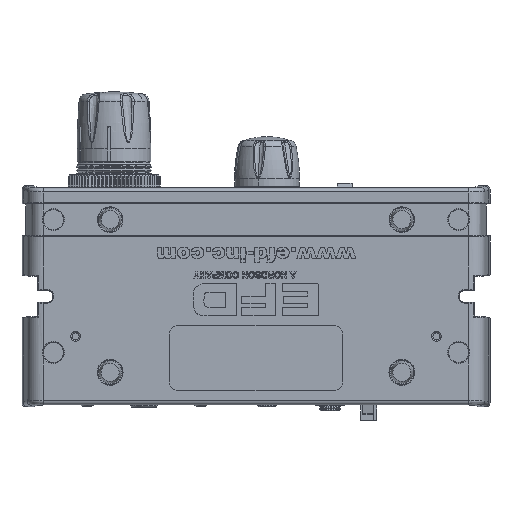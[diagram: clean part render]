
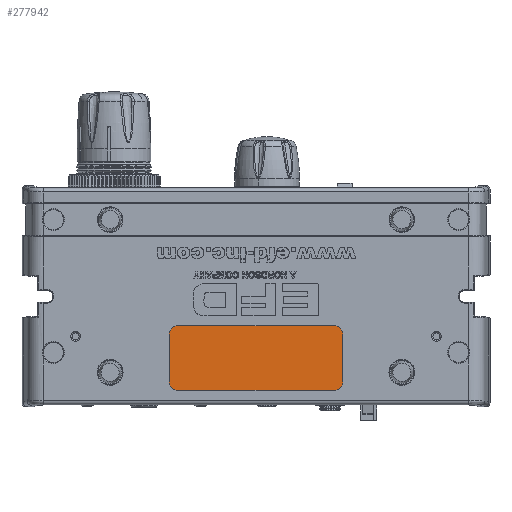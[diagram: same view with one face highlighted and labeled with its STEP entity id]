
A CAD part, front view. The second image highlights one B-rep face of the part: STEP entity #277942.
In plain terms, the highlighted planar face has unit normal (0, -1, 0).
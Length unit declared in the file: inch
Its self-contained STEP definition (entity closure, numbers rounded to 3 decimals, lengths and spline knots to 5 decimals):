
#2643 = ORIENTED_EDGE ( 'NONE', *, *, #301373, .T. ) ;
#3822 = VERTEX_POINT ( 'NONE', #52666 ) ;
#10986 = ORIENTED_EDGE ( 'NONE', *, *, #329025, .T. ) ;
#11798 = CARTESIAN_POINT ( 'NONE',  ( 1.205, 0.002, -1.45273 ) ) ;
#11953 = PLANE ( 'NONE',  #39980 ) ;
#14453 = DIRECTION ( 'NONE',  ( 0., -1., 0. ) ) ;
#14658 = CARTESIAN_POINT ( 'NONE',  ( 1.205, 0.002, -0.45273 ) ) ;
#26181 = CARTESIAN_POINT ( 'NONE',  ( -1.205, 0.002, -0.58773 ) ) ;
#33499 = DIRECTION ( 'NONE',  ( 0., 0., -1. ) ) ;
#37723 = VERTEX_POINT ( 'NONE', #71111 ) ;
#37733 = DIRECTION ( 'NONE',  ( 0., 0., -1. ) ) ;
#39980 = AXIS2_PLACEMENT_3D ( 'NONE', #319207, #293394, #37733 ) ;
#45113 = FACE_OUTER_BOUND ( 'NONE', #288570, .T. ) ;
#48125 = CIRCLE ( 'NONE', #185226, 0.135 ) ;
#51962 = DIRECTION ( 'NONE',  ( 0., 0., 1. ) ) ;
#52133 = AXIS2_PLACEMENT_3D ( 'NONE', #167950, #14453, #193876 ) ;
#52666 = CARTESIAN_POINT ( 'NONE',  ( -1.205, 0.002, -1.45273 ) ) ;
#64142 = CARTESIAN_POINT ( 'NONE',  ( 1.205, 0.002, -1.45273 ) ) ;
#69182 = CARTESIAN_POINT ( 'NONE',  ( 1.34, 0.002, -0.58773 ) ) ;
#71111 = CARTESIAN_POINT ( 'NONE',  ( -1.34, 0.002, -1.31773 ) ) ;
#73025 = CARTESIAN_POINT ( 'NONE',  ( 1.34, 0.002, -0.58773 ) ) ;
#80920 = AXIS2_PLACEMENT_3D ( 'NONE', #151206, #330707, #176901 ) ;
#84033 = CARTESIAN_POINT ( 'NONE',  ( -1.34, 0.002, -0.58773 ) ) ;
#110523 = DIRECTION ( 'NONE',  ( 0., -1., 0. ) ) ;
#130856 = EDGE_CURVE ( 'NONE', #322202, #191707, #310086, .T. ) ;
#144224 = VERTEX_POINT ( 'NONE', #14658 ) ;
#149441 = AXIS2_PLACEMENT_3D ( 'NONE', #26181, #205633, #51962 ) ;
#151206 = CARTESIAN_POINT ( 'NONE',  ( -1.205, 0.002, -1.31773 ) ) ;
#158397 = VECTOR ( 'NONE', #295073, 39.37008 ) ;
#167427 = ORIENTED_EDGE ( 'NONE', *, *, #263370, .T. ) ;
#167950 = CARTESIAN_POINT ( 'NONE',  ( 1.205, 0.002, -0.58773 ) ) ;
#176901 = DIRECTION ( 'NONE',  ( 0., 0., 1. ) ) ;
#177164 = DIRECTION ( 'NONE',  ( 0., 0., 1. ) ) ;
#178778 = CARTESIAN_POINT ( 'NONE',  ( 1.205, 0.002, -0.45273 ) ) ;
#180959 = DIRECTION ( 'NONE',  ( -1., 0., 0. ) ) ;
#181417 = CARTESIAN_POINT ( 'NONE',  ( -1.205, 0.002, -0.45273 ) ) ;
#185226 = AXIS2_PLACEMENT_3D ( 'NONE', #264093, #110523, #289882 ) ;
#186818 = LINE ( 'NONE', #178778, #315262 ) ;
#188908 = ORIENTED_EDGE ( 'NONE', *, *, #276379, .T. ) ;
#191707 = VERTEX_POINT ( 'NONE', #69182 ) ;
#193644 = EDGE_CURVE ( 'NONE', #3822, #284308, #294871, .T. ) ;
#193876 = DIRECTION ( 'NONE',  ( 0., 0., -1. ) ) ;
#201387 = CARTESIAN_POINT ( 'NONE',  ( 1.34, 0.002, -1.31773 ) ) ;
#201553 = VERTEX_POINT ( 'NONE', #321284 ) ;
#205633 = DIRECTION ( 'NONE',  ( 0., -1., 0. ) ) ;
#211087 = VECTOR ( 'NONE', #33499, 39.37008 ) ;
#213002 = ORIENTED_EDGE ( 'NONE', *, *, #193644, .T. ) ;
#219120 = LINE ( 'NONE', #84033, #211087 ) ;
#222967 = CIRCLE ( 'NONE', #149441, 0.135 ) ;
#226288 = EDGE_CURVE ( 'NONE', #191707, #144224, #331734, .T. ) ;
#228975 = ORIENTED_EDGE ( 'NONE', *, *, #283194, .T. ) ;
#233789 = VECTOR ( 'NONE', #177164, 39.37008 ) ;
#245299 = CIRCLE ( 'NONE', #80920, 0.135 ) ;
#263370 = EDGE_CURVE ( 'NONE', #284308, #322202, #48125, .T. ) ;
#264093 = CARTESIAN_POINT ( 'NONE',  ( 1.205, 0.002, -1.31773 ) ) ;
#276379 = EDGE_CURVE ( 'NONE', #201553, #37723, #219120, .T. ) ;
#277942 = ADVANCED_FACE ( 'NONE', ( #45113 ), #11953, .T. ) ;
#283194 = EDGE_CURVE ( 'NONE', #144224, #324711, #186818, .T. ) ;
#284308 = VERTEX_POINT ( 'NONE', #11798 ) ;
#284892 = ORIENTED_EDGE ( 'NONE', *, *, #130856, .T. ) ;
#288570 = EDGE_LOOP ( 'NONE', ( #295236, #228975, #2643, #188908, #10986, #213002, #167427, #284892 ) ) ;
#289882 = DIRECTION ( 'NONE',  ( 0., 0., -1. ) ) ;
#293394 = DIRECTION ( 'NONE',  ( 0., -1., 0. ) ) ;
#294871 = LINE ( 'NONE', #64142, #158397 ) ;
#295073 = DIRECTION ( 'NONE',  ( 1., 0., 0. ) ) ;
#295236 = ORIENTED_EDGE ( 'NONE', *, *, #226288, .T. ) ;
#301373 = EDGE_CURVE ( 'NONE', #324711, #201553, #222967, .T. ) ;
#310086 = LINE ( 'NONE', #73025, #233789 ) ;
#315262 = VECTOR ( 'NONE', #180959, 39.37008 ) ;
#319207 = CARTESIAN_POINT ( 'NONE',  ( 1.205, 0.002, -0.58773 ) ) ;
#321284 = CARTESIAN_POINT ( 'NONE',  ( -1.34, 0.002, -0.58773 ) ) ;
#322202 = VERTEX_POINT ( 'NONE', #201387 ) ;
#324711 = VERTEX_POINT ( 'NONE', #181417 ) ;
#329025 = EDGE_CURVE ( 'NONE', #37723, #3822, #245299, .T. ) ;
#330707 = DIRECTION ( 'NONE',  ( 0., -1., 0. ) ) ;
#331734 = CIRCLE ( 'NONE', #52133, 0.135 ) ;
